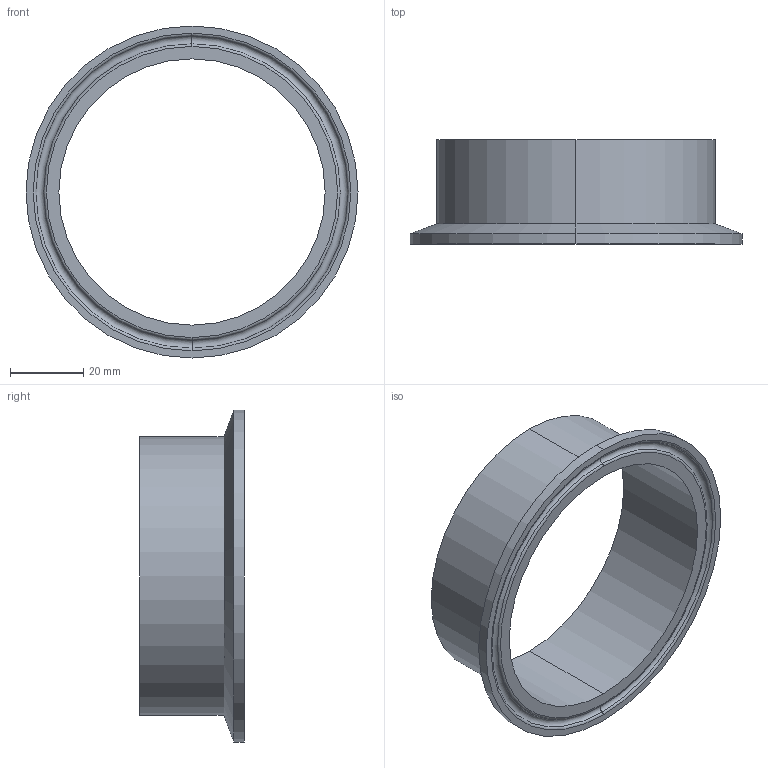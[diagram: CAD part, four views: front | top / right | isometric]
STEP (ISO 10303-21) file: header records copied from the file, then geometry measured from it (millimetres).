
FILE_DESCRIPTION (( 'STEP AP203' ), '1' );
FILE_NAME ('EG14AM73.0.STEP', '2018-05-01T12:59:54', ( 'vneprd' ), ( 'Microsoft' ), 'SwSTEP 2.0', 'SolidWorks 2014', '' );
FILE_SCHEMA (( 'CONFIG_CONTROL_DESIGN' ));
Length unit declared in the file: inch
Products named in the file (1): EG14AM73.0
Bounding box: 90.91 x 28.57 x 90.91 mm (x, y, z)
Volume: 18427.4 mm3; surface area: 17886.6 mm2
Topology: 1 solids, 1 shells, 17 faces, 34 edges, 20 vertices
Faces by surface type: cylinder 6, torus 6, plane 3, cone 2
Entity records: 533 total; most frequent: DIRECTION 96, CARTESIAN_POINT 72, ORIENTED_EDGE 68, AXIS2_PLACEMENT_3D 44, EDGE_CURVE 34, CIRCLE 26, VERTEX_POINT 20, EDGE_LOOP 20
